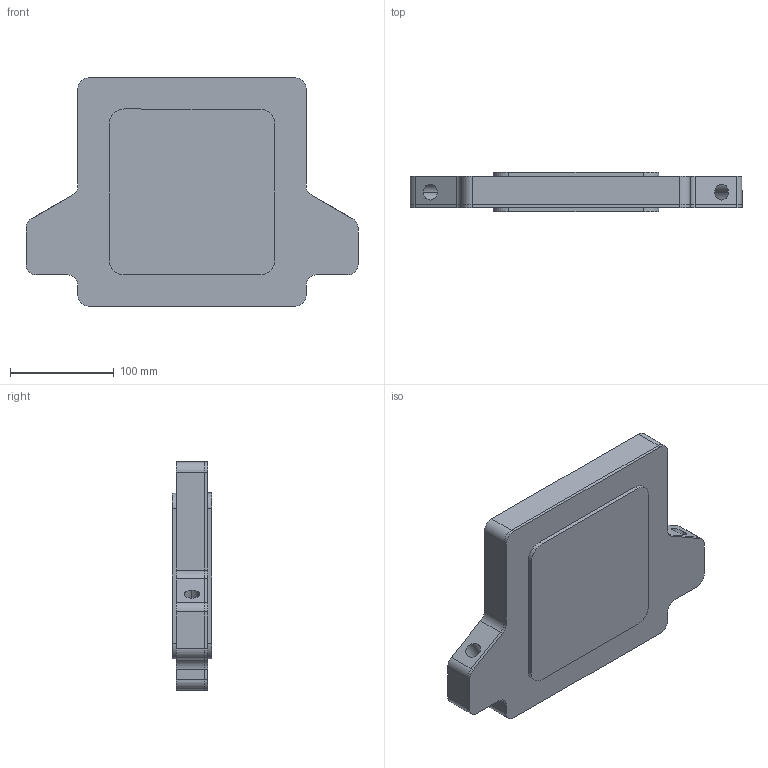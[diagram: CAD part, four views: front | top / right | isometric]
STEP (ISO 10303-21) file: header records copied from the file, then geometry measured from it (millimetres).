
FILE_DESCRIPTION (( 'STEP AP214' ), '1' );
FILE_NAME ('ﾍﾎﾆ-160ﾊﾂ.STEP', '2025-09-18T10:22:15', ( '' ), ( '' ), 'SwSTEP 2.0', 'SolidWorks 2024', '' );
FILE_SCHEMA (( 'AUTOMOTIVE_DESIGN' ));
Length unit declared in the file: millimetre
Products named in the file (4): spiral; korpuc; НОЖ-160КВ; krishka
Assembly tree (3 placements, depth 2):
  НОЖ-160КВ
    korpuc
    spiral
    krishka
Bounding box: 320 x 38 x 220 mm (x, y, z)
Volume: 1406715.2 mm3; surface area: 488956 mm2
Topology: 4 solids, 4 shells, 272 faces, 780 edges, 520 vertices
Faces by surface type: plane 138, cylinder 134
Entity records: 9106 total; most frequent: DIRECTION 1596, CARTESIAN_POINT 1590, ORIENTED_EDGE 1560, EDGE_CURVE 780, AXIS2_PLACEMENT_3D 542, VERTEX_POINT 520, VECTOR 512, LINE 512
